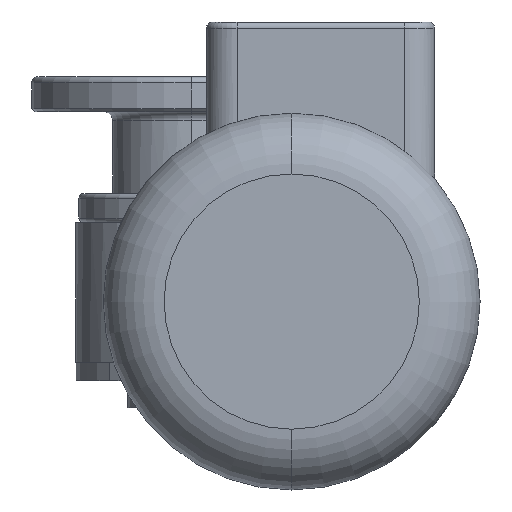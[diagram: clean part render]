
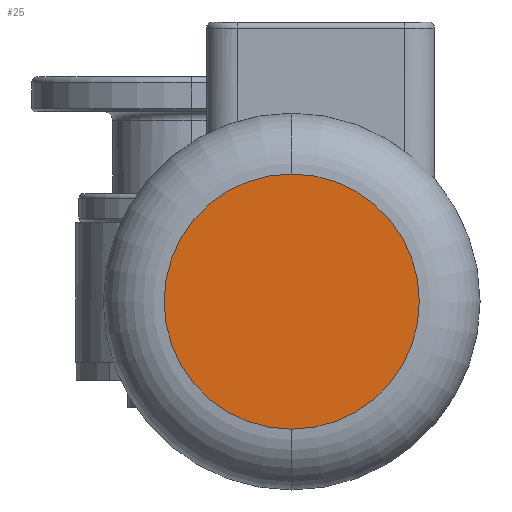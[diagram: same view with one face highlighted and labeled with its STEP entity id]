
A CAD part, left-side view. The second image highlights one B-rep face of the part: STEP entity #25.
In plain terms, the highlighted planar face has unit normal (-1, 0, 0).
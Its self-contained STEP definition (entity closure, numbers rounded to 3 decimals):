
#25 = ADVANCED_FACE ( 'NONE', ( #115 ), #2009, .F. ) ;
#115 = FACE_OUTER_BOUND ( 'NONE', #10358, .T. ) ;
#560 = ORIENTED_EDGE ( 'NONE', *, *, #1841, .T. ) ;
#1364 = DIRECTION ( 'NONE',  ( 0., 0., 1. ) ) ;
#1841 = EDGE_CURVE ( 'NONE', #2369, #6924, #6398, .T. ) ;
#1963 = DIRECTION ( 'NONE',  ( -1., 0., 0. ) ) ;
#2009 = PLANE ( 'NONE',  #5253 ) ;
#2369 = VERTEX_POINT ( 'NONE', #5334 ) ;
#3284 = EDGE_CURVE ( 'NONE', #6924, #2369, #12549, .T. ) ;
#5092 = AXIS2_PLACEMENT_3D ( 'NONE', #11094, #1963, #12193 ) ;
#5253 = AXIS2_PLACEMENT_3D ( 'NONE', #5340, #9753, #5395 ) ;
#5334 = CARTESIAN_POINT ( 'NONE',  ( -233., 0., 42. ) ) ;
#5340 = CARTESIAN_POINT ( 'NONE',  ( -233., 0., 0. ) ) ;
#5395 = DIRECTION ( 'NONE',  ( 0., 0., 1. ) ) ;
#5657 = CARTESIAN_POINT ( 'NONE',  ( -233., 0., 0. ) ) ;
#6398 = CIRCLE ( 'NONE', #5092, 42. ) ;
#6452 = AXIS2_PLACEMENT_3D ( 'NONE', #5657, #13009, #1364 ) ;
#6924 = VERTEX_POINT ( 'NONE', #9409 ) ;
#9409 = CARTESIAN_POINT ( 'NONE',  ( -233., 0., -42. ) ) ;
#9753 = DIRECTION ( 'NONE',  ( 1., 0., 0. ) ) ;
#10211 = ORIENTED_EDGE ( 'NONE', *, *, #3284, .T. ) ;
#10358 = EDGE_LOOP ( 'NONE', ( #560, #10211 ) ) ;
#11094 = CARTESIAN_POINT ( 'NONE',  ( -233., 0., 0. ) ) ;
#12193 = DIRECTION ( 'NONE',  ( 0., 0., 1. ) ) ;
#12549 = CIRCLE ( 'NONE', #6452, 42. ) ;
#13009 = DIRECTION ( 'NONE',  ( -1., 0., 0. ) ) ;
